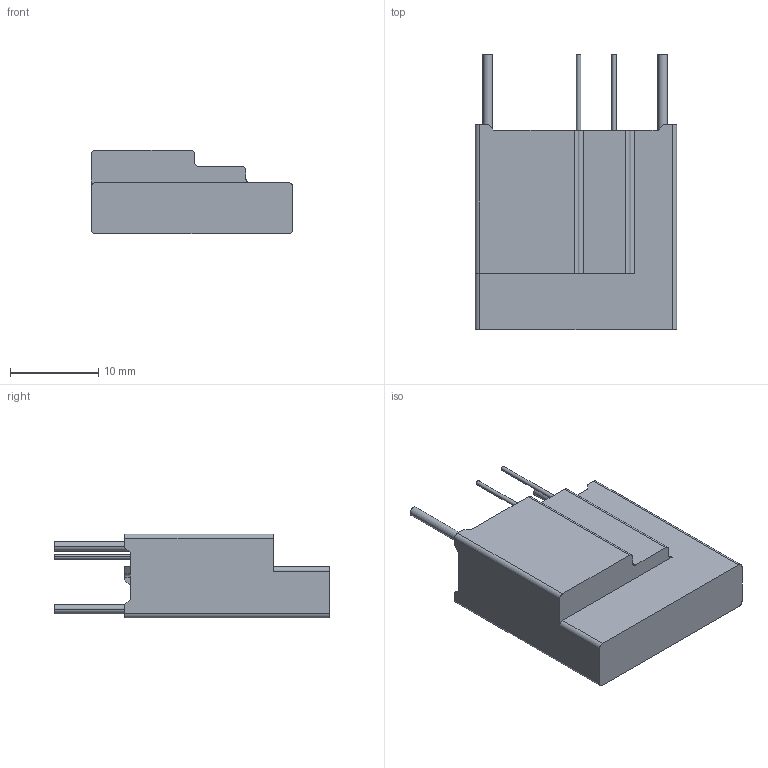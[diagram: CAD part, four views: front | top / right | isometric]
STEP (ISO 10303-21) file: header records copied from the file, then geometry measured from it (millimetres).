
FILE_DESCRIPTION((''),'2;1');
FILE_NAME('20S4301-IT-20200616','2020-06-18T',('set'),(''),'PRO/ENGINEER BY PARAMETRIC TECHNOLOGY CORPORATION, 2012310','PRO/ENGINEER BY PARAMETRIC TECHNOLOGY CORPORATION, 2012310','');
FILE_SCHEMA(('CONFIG_CONTROL_DESIGN','SHAPE_APPEARANCE_LAYERS_GROUPS'));
Length unit declared in the file: millimetre
Products named in the file (1): 20S4301-IT-20200616
Bounding box: 22.8 x 31.2 x 9.5 mm (x, y, z)
Volume: 1302.6 mm3; surface area: 3368.4 mm2
Topology: 1 solids, 2 shells, 107 faces, 296 edges, 197 vertices
Faces by surface type: plane 79, cylinder 28
Entity records: 3448 total; most frequent: CARTESIAN_POINT 600, ORIENTED_EDGE 592, DIRECTION 567, EDGE_CURVE 296, VECTOR 239, LINE 239, VERTEX_POINT 197, AXIS2_PLACEMENT_3D 164
